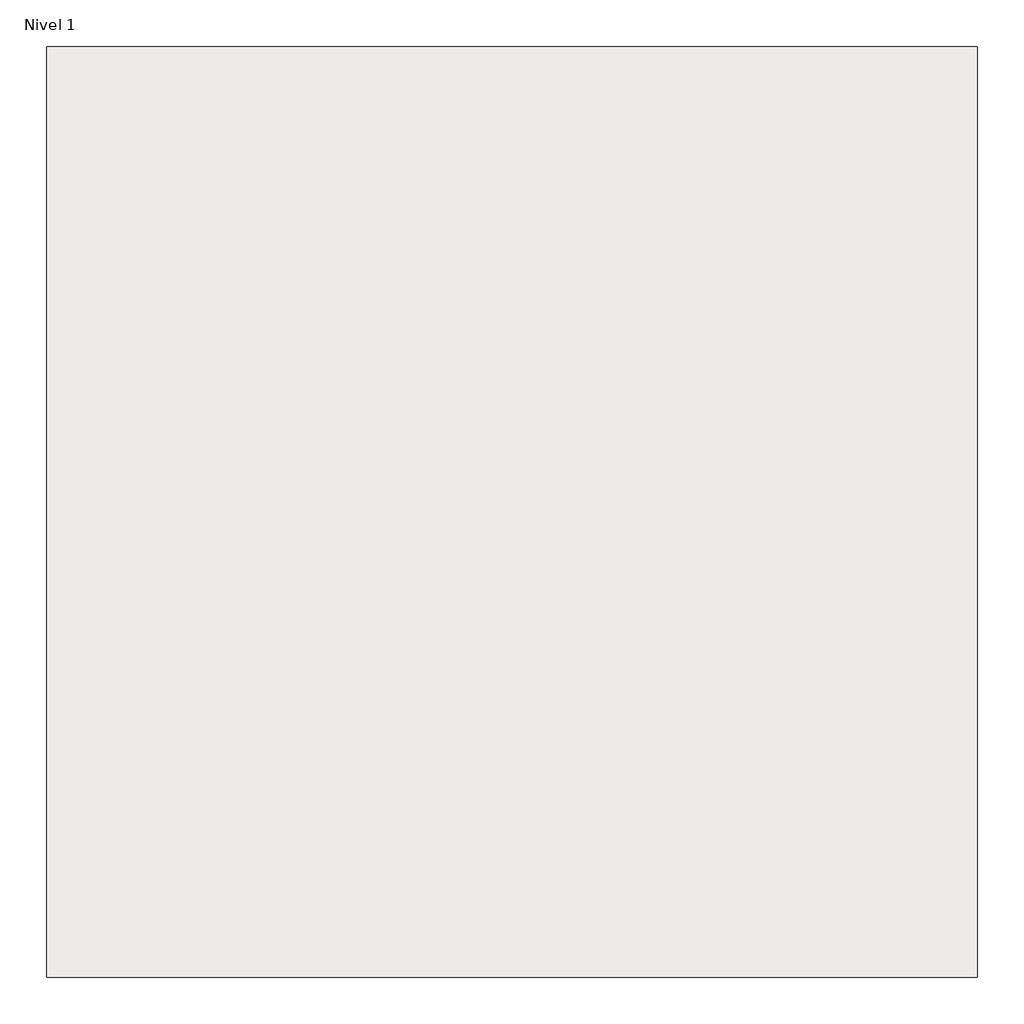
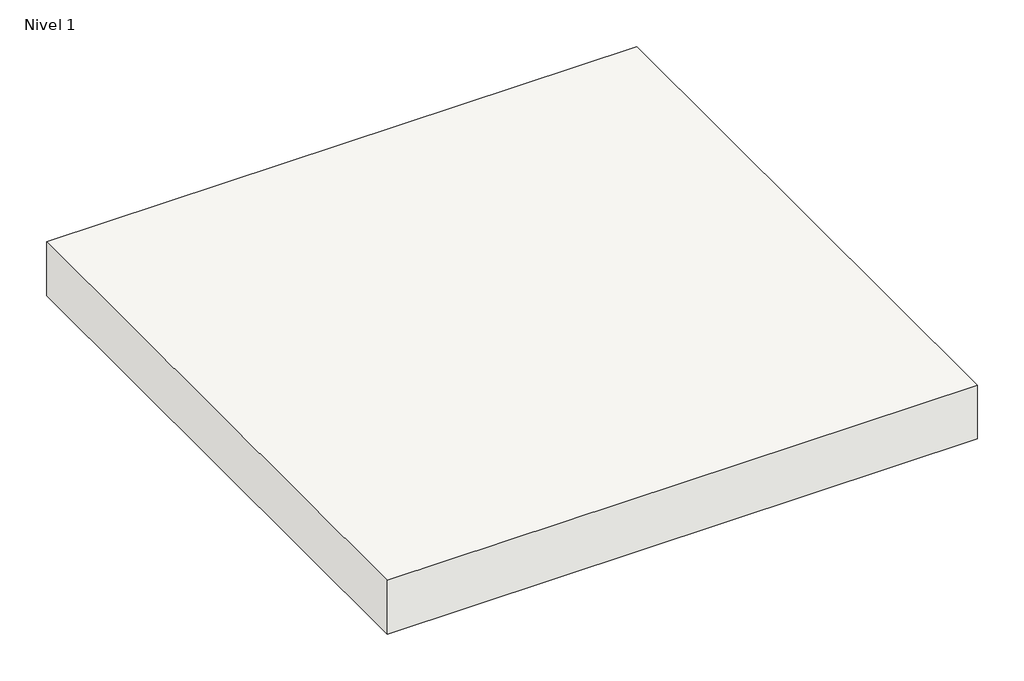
# One storey: 1 roof.
"""IFC4 building model written with IfcOpenShell, lengths in millimetres."""

from ifc_helpers import new_model, si_unit, origin, origin_with_axes, place, context, project, spatial, polyline, outline, extrude, element, save

model = new_model("IFC4")

# Units and contexts
model_context = context("Model", 3, world=origin())
ifc_project = project(units=[si_unit("LENGTHUNIT", "METRE", prefix="MILLI")], contexts=[model_context])

# Site, building, storey
site = spatial("IfcSite", under=ifc_project)
building = spatial("IfcBuilding", under=site)
storey = spatial("IfcBuildingStorey", under=building, Name="Nivel 1", Elevation=0.0)

# Roof
placement = place(None, origin())
element("IfcRoof", 1, ObjectType="Cubierta metálica tipo deck con plancha rígida PURPIR", at=placement, inside=storey, context=model_context, shape_type="SweptSolid", body=[
    extrude(outline(polyline([(-3013.2553136, 3631.8256744), (-4013.2553136, 3631.8256744), (-4013.2553136, 4631.8256744), (-3013.2553136, 4631.8256744), (-3013.2553136, 3631.8256744)])), origin_with_axes(), (0.0, 0.0, 1.0), 96.6),
])

save(model, "model.ifc")
